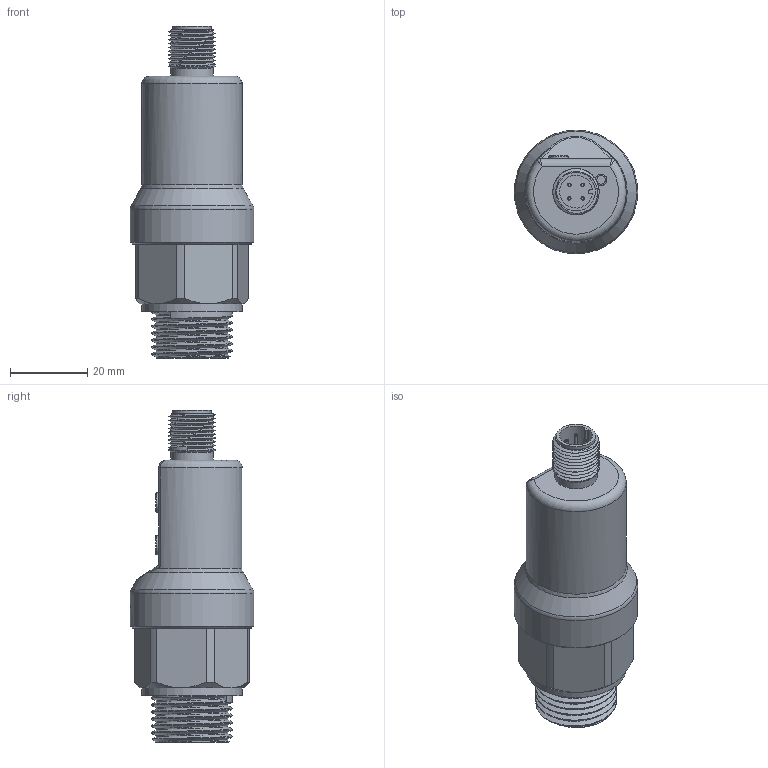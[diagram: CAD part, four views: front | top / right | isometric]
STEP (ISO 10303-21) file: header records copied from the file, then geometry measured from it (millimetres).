
FILE_DESCRIPTION( (''), '2;1');
FILE_NAME( 'PSKA_R1-2.step', '2025-08-21T15:36:38+08:00', (''), (''), '', '', '');
FILE_SCHEMA (('AUTOMOTIVE_DESIGN { 1 0 10303 214 3 1 1 1 }'));
Length unit declared in the file: millimetre
Products named in the file (1): PSKA R1-2
Bounding box: 32 x 32 x 86 mm (x, y, z)
Volume: 22374.5 mm3; surface area: 19015 mm2
Topology: 11 solids, 11 shells, 268 faces, 610 edges, 390 vertices
Faces by surface type: plane 140, cylinder 65, cone 25, torus 22, bspline 15, sphere 1
Full cylindrical faces by diameter (mm): 0.5 x2, 0.9 x8, 2 x4, 2.6 x1, 3 x1, 4 x1, 5 x2, 5.3 x2, 7 x1, 9.8 x2, 10 x1, 11 x1, 19.1 x1, 23 x2, 26 x4, 26.1 x1, 32 x1
Entity records: 11811 total; most frequent: CARTESIAN_POINT 6082, DIRECTION 1141, ORIENTED_EDGE 1050, EDGE_CURVE 525, AXIS2_PLACEMENT_3D 446, EDGE_LOOP 374, VERTEX_POINT 371, ADVANCED_FACE 268
